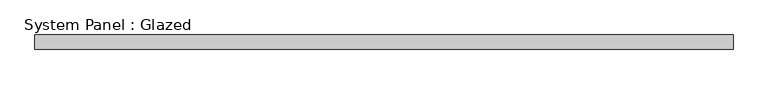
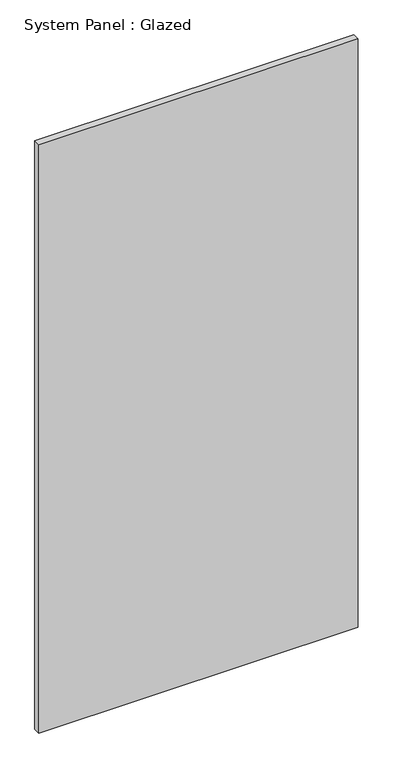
"""IFC4 building model written with IfcOpenShell, lengths in millimetres: plate geometry, System Panel : Glazed."""

from ifc_helpers import new_model, si_unit, origin, origin_with_axes, place, context, project, spatial, polyline, outline, extrude, source, transform, mapped, element, save


def system_panel_glazed_9321ce6d(model_context):
    return source(origin(), model_context, "Body", "SweptSolid", [
        extrude(outline(polyline([(609.6, -44.45), (-609.6, -44.45), (-609.6, -19.05), (609.6, -19.05), (609.6, -44.45)])), origin_with_axes(), (0.0, 0.0, 1.0), 2374.9),
    ])


if __name__ == "__main__":
    model = new_model("IFC4")
    model_context = context("Model", 3, world=origin())
    ifc_project = project(units=[si_unit("LENGTHUNIT", "METRE", prefix="MILLI")], contexts=[model_context])
    site = spatial("IfcSite", under=ifc_project)
    building = spatial("IfcBuilding", under=site)
    placement = place(None, origin())
    system_panel_glazed_shape = system_panel_glazed_9321ce6d(model_context)
    element("IfcPlate", 1, ObjectType="System Panel : Glazed", at=placement, inside=building, context=model_context, shape_type="MappedRepresentation", body=[
        mapped(system_panel_glazed_shape, transform((0.0, 0.0, 0.0), x_axis=(1.0, 0.0, 0.0), y_axis=(0.0, 1.0, 0.0), z_axis=(0.0, 0.0, 1.0))),
    ])
    save(model, "model.ifc")
